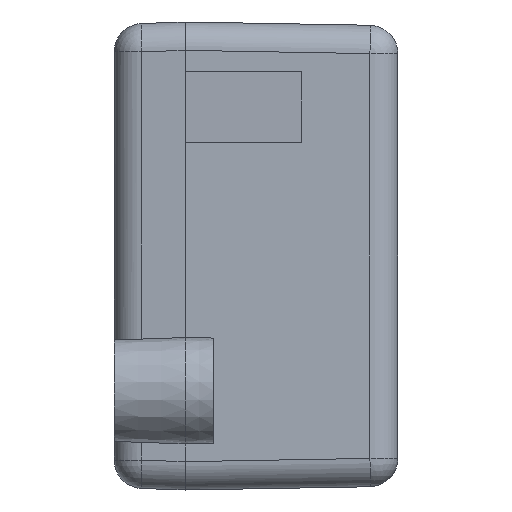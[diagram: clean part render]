
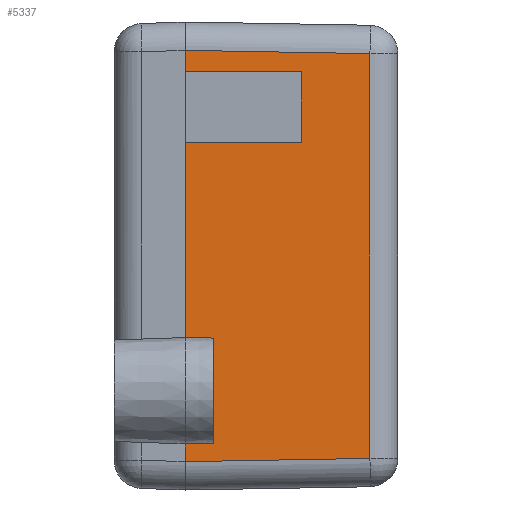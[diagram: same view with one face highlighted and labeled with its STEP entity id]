
A CAD part, left-side view. The second image highlights one B-rep face of the part: STEP entity #5337.
In plain terms, the highlighted planar face has unit normal (-1, -0.018, 0).
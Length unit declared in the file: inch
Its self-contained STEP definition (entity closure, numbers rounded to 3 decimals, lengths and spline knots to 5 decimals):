
#88=CARTESIAN_POINT('',(-62.,15.,14.50027));
#90=DIRECTION('',(0.,0.,-1.));
#91=VECTOR('',#90,1.50029);
#92=CARTESIAN_POINT('',(-62.,15.,14.50029));
#93=LINE('',#92,#91);
#1191=DIRECTION('',(0.,0.,-1.));
#1192=VECTOR('',#1191,13.75);
#1193=CARTESIAN_POINT('',(-62.,15.,8.));
#1194=LINE('',#1193,#1192);
#1208=DIRECTION('',(0.,0.,-1.));
#1209=VECTOR('',#1208,1.2503);
#1210=CARTESIAN_POINT('',(-62.,15.,-13.25));
#1211=LINE('',#1210,#1209);
#1212=CARTESIAN_POINT('',(-62.,15.,-14.50028));
#1248=DIRECTION('',(0.,0.,1.));
#1249=VECTOR('',#1248,5.);
#1250=CARTESIAN_POINT('',(-61.85687,6.8,8.));
#1251=LINE('',#1250,#1249);
#1252=DIRECTION('',(0.017,-1.,-0.017));
#1253=VECTOR('',#1252,13.03888);
#1254=CARTESIAN_POINT('',(-62.,15.,14.50029));
#1255=LINE('',#1254,#1253);
#1256=DIRECTION('',(-0.017,1.,-0.017));
#1257=VECTOR('',#1256,13.03888);
#1258=CARTESIAN_POINT('',(-61.77247,1.9651,
-14.27278));
#1259=LINE('',#1258,#1257);
#1260=DIRECTION('',(0.,0.,1.));
#1261=VECTOR('',#1260,7.43018);
#1262=CARTESIAN_POINT('',(-61.96509,13.,-13.21509));
#1263=LINE('',#1262,#1261);
#1264=DIRECTION('',(-0.017,1.,0.017));
#1265=VECTOR('',#1264,2.00061);
#1266=CARTESIAN_POINT('',(-61.96509,13.,-5.78491));
#1267=LINE('',#1266,#1265);
#1284=DIRECTION('',(-0.017,1.,0.));
#1285=VECTOR('',#1284,8.20125);
#1286=CARTESIAN_POINT('',(-61.85687,6.8,8.));
#1287=LINE('',#1286,#1285);
#2023=DIRECTION('',(0.017,-1.,0.));
#2024=VECTOR('',#2023,8.20125);
#2025=CARTESIAN_POINT('',(-62.,15.,13.));
#2026=LINE('',#2025,#2024);
#2403=DIRECTION('',(0.,0.,1.));
#2404=VECTOR('',#2403,28.54556);
#2405=CARTESIAN_POINT('',(-61.77247,1.9651,
-14.27278));
#2406=LINE('',#2405,#2404);
#2476=DIRECTION('',(-0.017,1.,-0.017));
#2477=VECTOR('',#2476,2.00061);
#2478=CARTESIAN_POINT('',(-61.96509,13.,-13.21509));
#2479=LINE('',#2478,#2477);
#3147=CARTESIAN_POINT('',(-61.77247,1.9651,
-14.27278));
#3148=VERTEX_POINT('',#3147);
#3149=CARTESIAN_POINT('',(-61.77247,1.9651,14.27278));
#3150=VERTEX_POINT('',#3149);
#3155=VERTEX_POINT('',#1212);
#3156=CARTESIAN_POINT('',(-61.85687,6.8,8.));
#3157=CARTESIAN_POINT('',(-61.85687,6.8,13.));
#3158=VERTEX_POINT('',#3156);
#3159=VERTEX_POINT('',#3157);
#3528=CARTESIAN_POINT('',(-62.,15.,8.));
#3529=VERTEX_POINT('',#3528);
#3530=CARTESIAN_POINT('',(-62.,15.,-5.75));
#3531=VERTEX_POINT('',#3530);
#3535=CARTESIAN_POINT('',(-62.,15.,-13.25));
#3537=VERTEX_POINT('',#3535);
#3543=VERTEX_POINT('',#88);
#3544=CARTESIAN_POINT('',(-62.,15.,13.));
#3545=VERTEX_POINT('',#3544);
#3550=CARTESIAN_POINT('',(-61.96509,13.,-13.21509));
#3551=CARTESIAN_POINT('',(-61.96509,13.,-5.78491));
#3552=VERTEX_POINT('',#3550);
#3553=VERTEX_POINT('',#3551);
#5310=CARTESIAN_POINT('',(-62.,15.,-19.05028));
#5311=DIRECTION('',(-1.,-0.017,0.));
#5312=DIRECTION('',(0.,0.,1.));
#5313=AXIS2_PLACEMENT_3D('',#5310,#5311,#5312);
#5314=PLANE('',#5313);
#5316=ORIENTED_EDGE('',*,*,#5315,.T.);
#5318=ORIENTED_EDGE('',*,*,#5317,.F.);
#5319=ORIENTED_EDGE('',*,*,#4197,.F.);
#5321=ORIENTED_EDGE('',*,*,#5320,.T.);
#5323=ORIENTED_EDGE('',*,*,#5322,.F.);
#5325=ORIENTED_EDGE('',*,*,#5324,.T.);
#5326=ORIENTED_EDGE('',*,*,#5247,.F.);
#5328=ORIENTED_EDGE('',*,*,#5327,.F.);
#5329=ORIENTED_EDGE('',*,*,#5293,.T.);
#5331=ORIENTED_EDGE('',*,*,#5330,.T.);
#5332=ORIENTED_EDGE('',*,*,#5239,.F.);
#5334=ORIENTED_EDGE('',*,*,#5333,.F.);
#5335=EDGE_LOOP('',(#5316,#5318,#5319,#5321,#5323,#5325,#5326,#5328,#5329,#5331,
#5332,#5334));
#5336=FACE_OUTER_BOUND('',#5335,.F.);
#5337=ADVANCED_FACE('',(#5336),#5314,.T.);
#4197=EDGE_CURVE('',#3543,#3545,#93,.T.);
#5239=EDGE_CURVE('',#3529,#3531,#1194,.T.);
#5247=EDGE_CURVE('',#3537,#3155,#1211,.T.);
#5293=EDGE_CURVE('',#3552,#3553,#1263,.T.);
#5315=EDGE_CURVE('',#3158,#3159,#1251,.T.);
#5317=EDGE_CURVE('',#3545,#3159,#2026,.T.);
#5320=EDGE_CURVE('',#3543,#3150,#1255,.T.);
#5322=EDGE_CURVE('',#3148,#3150,#2406,.T.);
#5324=EDGE_CURVE('',#3148,#3155,#1259,.T.);
#5327=EDGE_CURVE('',#3552,#3537,#2479,.T.);
#5330=EDGE_CURVE('',#3553,#3531,#1267,.T.);
#5333=EDGE_CURVE('',#3158,#3529,#1287,.T.);
